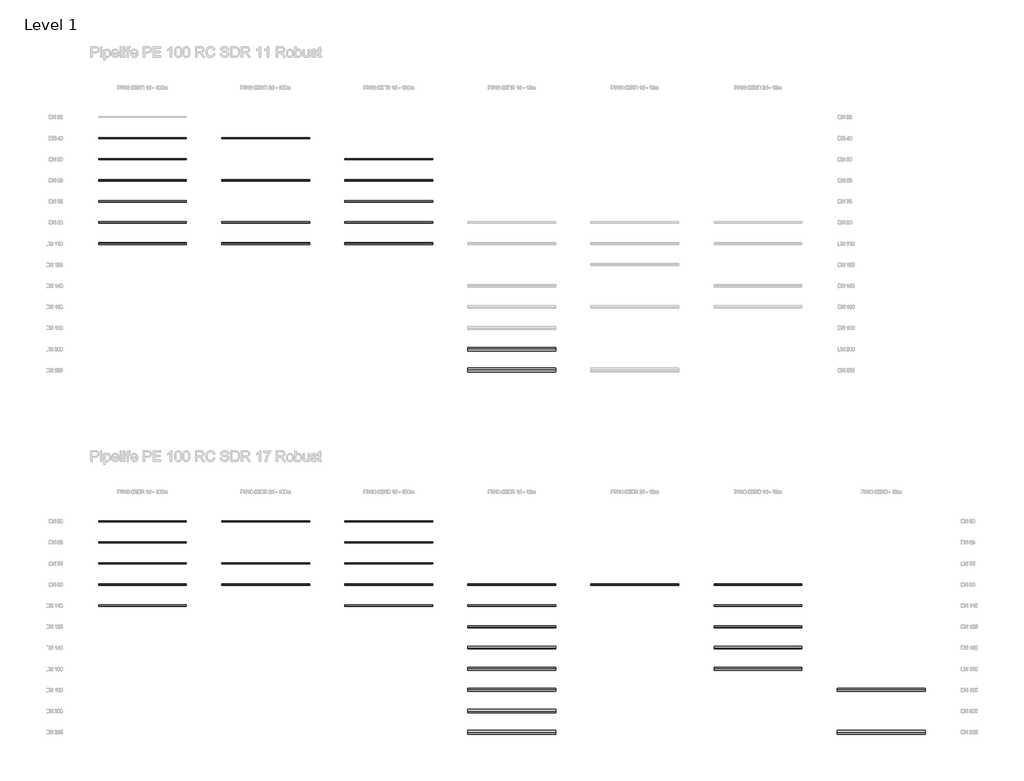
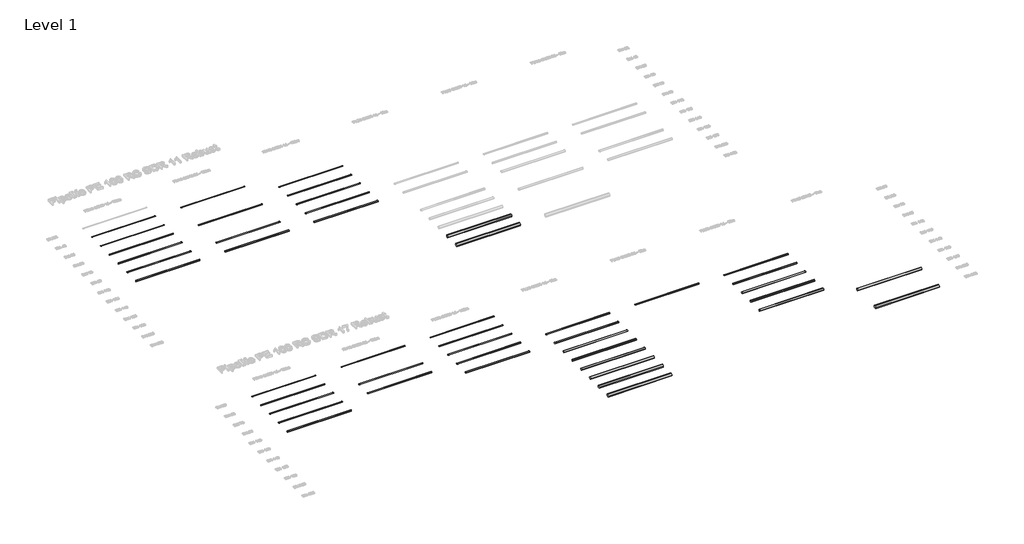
# One storey, part 1 of 13: 46 pipe segments.
"""IFC4 building model written with IfcOpenShell, lengths in millimetres."""

from ifc_helpers import new_model, si_unit, point, frame, frame_2d, origin, place, context, project, spatial, circle_curve, trimmed, segment, composite_curve, outline, extrude, element, save

model = new_model("IFC4")

# Units and contexts
model_context = context("Model", 3, world=origin())
ifc_project = project(units=[si_unit("LENGTHUNIT", "METRE", prefix="MILLI")], contexts=[model_context])

# Site, building, storey
site = spatial("IfcSite", under=ifc_project)
building = spatial("IfcBuilding", under=site)
storey = spatial("IfcBuildingStorey", under=building, Name="Level 1", Elevation=0.0)

# Pipe segments
placement = place(None, origin())
element("IfcPipeSegment", 1, ObjectType="Pipelife ROBUST, SDR 11 czarno/niebieska 1d - 100m", at=placement, inside=storey, context=model_context, shape_type="SweptSolid", body=[
    extrude(outline(composite_curve([segment(trimmed(circle_curve(frame_2d((-5413.949573, 0.0)), 45.0), [point((-5458.949573, 0.0))], [point((-5413.949573, 45.0))], False, "CARTESIAN"), True, "CONTINUOUS"), segment(trimmed(circle_curve(frame_2d((-5413.949573, 0.0)), 45.0), [point((-5413.949573, 45.0))], [point((-5368.949573, 0.0))], False, "CARTESIAN"), True, "CONTINUOUS"), segment(trimmed(circle_curve(frame_2d((-5413.949573, 0.0)), 45.0), [point((-5368.949573, 0.0))], [point((-5413.949573, -45.0))], False, "CARTESIAN"), True, "CONTINUOUS"), segment(trimmed(circle_curve(frame_2d((-5413.949573, 0.0)), 45.0), [point((-5413.949573, -45.0))], [point((-5458.949573, 0.0))], False, "CARTESIAN"), True, "CONTINUOUS")], self_intersect=False)), frame((-16532.6671252, 0.0, 0.0), z_axis=(1.0, 0.0, 0.0), x_axis=(0.0, 1.0, 0.0)), (0.0, 0.0, 1.0), 5000.0),
])
element("IfcPipeSegment", 2, ObjectType="Pipelife ROBUST, SDR 11 czarno/niebieska 1d - 100m", at=placement, inside=storey, context=model_context, shape_type="SweptSolid", body=[
    extrude(outline(composite_curve([segment(trimmed(circle_curve(frame_2d((-4213.949573, 0.0)), 37.5), [point((-4251.449573, 0.0))], [point((-4213.949573, 37.5))], False, "CARTESIAN"), True, "CONTINUOUS"), segment(trimmed(circle_curve(frame_2d((-4213.949573, 0.0)), 37.5), [point((-4213.949573, 37.5))], [point((-4176.449573, 0.0))], False, "CARTESIAN"), True, "CONTINUOUS"), segment(trimmed(circle_curve(frame_2d((-4213.949573, 0.0)), 37.5), [point((-4176.449573, 0.0))], [point((-4213.949573, -37.5))], False, "CARTESIAN"), True, "CONTINUOUS"), segment(trimmed(circle_curve(frame_2d((-4213.949573, 0.0)), 37.5), [point((-4213.949573, -37.5))], [point((-4251.449573, 0.0))], False, "CARTESIAN"), True, "CONTINUOUS")], self_intersect=False)), frame((-16532.6671252, 0.0, 0.0), z_axis=(1.0, 0.0, 0.0), x_axis=(0.0, 1.0, 0.0)), (0.0, 0.0, 1.0), 5000.0),
])
element("IfcPipeSegment", 3, ObjectType="Pipelife ROBUST, SDR 11 czarno/niebieska 1d - 100m", at=placement, inside=storey, context=model_context, shape_type="SweptSolid", body=[
    extrude(outline(composite_curve([segment(trimmed(circle_curve(frame_2d((-3013.949573, 0.0)), 31.5), [point((-3045.449573, 0.0))], [point((-3013.949573, 31.5))], False, "CARTESIAN"), True, "CONTINUOUS"), segment(trimmed(circle_curve(frame_2d((-3013.949573, 0.0)), 31.5), [point((-3013.949573, 31.5))], [point((-2982.449573, 0.0))], False, "CARTESIAN"), True, "CONTINUOUS"), segment(trimmed(circle_curve(frame_2d((-3013.949573, 0.0)), 31.5), [point((-2982.449573, 0.0))], [point((-3013.949573, -31.5))], False, "CARTESIAN"), True, "CONTINUOUS"), segment(trimmed(circle_curve(frame_2d((-3013.949573, 0.0)), 31.5), [point((-3013.949573, -31.5))], [point((-3045.449573, 0.0))], False, "CARTESIAN"), True, "CONTINUOUS")], self_intersect=False)), frame((-16532.6671252, 0.0, 0.0), z_axis=(1.0, 0.0, 0.0), x_axis=(0.0, 1.0, 0.0)), (0.0, 0.0, 1.0), 5000.0),
])
element("IfcPipeSegment", 4, ObjectType="Pipelife ROBUST, SDR 11 czarno/niebieska 1d - 100m", at=placement, inside=storey, context=model_context, shape_type="SweptSolid", body=[
    extrude(outline(composite_curve([segment(trimmed(circle_curve(frame_2d((-1813.949573, 0.0)), 25.0), [point((-1838.949573, 0.0))], [point((-1813.949573, 25.0))], False, "CARTESIAN"), True, "CONTINUOUS"), segment(trimmed(circle_curve(frame_2d((-1813.949573, 0.0)), 25.0), [point((-1813.949573, 25.0))], [point((-1788.949573, 0.0))], False, "CARTESIAN"), True, "CONTINUOUS"), segment(trimmed(circle_curve(frame_2d((-1813.949573, 0.0)), 25.0), [point((-1788.949573, 0.0))], [point((-1813.949573, -25.0))], False, "CARTESIAN"), True, "CONTINUOUS"), segment(trimmed(circle_curve(frame_2d((-1813.949573, 0.0)), 25.0), [point((-1813.949573, -25.0))], [point((-1838.949573, 0.0))], False, "CARTESIAN"), True, "CONTINUOUS")], self_intersect=False)), frame((-16532.6671252, 0.0, 0.0), z_axis=(1.0, 0.0, 0.0), x_axis=(0.0, 1.0, 0.0)), (0.0, 0.0, 1.0), 5000.0),
])
element("IfcPipeSegment", 5, ObjectType="Pipelife ROBUST, SDR 11 czarno/niebieska 1d - 100m", at=placement, inside=storey, context=model_context, shape_type="SweptSolid", body=[
    extrude(outline(composite_curve([segment(trimmed(circle_curve(frame_2d((-613.949573, 0.0)), 20.0), [point((-633.949573, 0.0))], [point((-613.949573, 20.0))], False, "CARTESIAN"), True, "CONTINUOUS"), segment(trimmed(circle_curve(frame_2d((-613.949573, 0.0)), 20.0), [point((-613.949573, 20.0))], [point((-593.949573, 0.0))], False, "CARTESIAN"), True, "CONTINUOUS"), segment(trimmed(circle_curve(frame_2d((-613.949573, 0.0)), 20.0), [point((-593.949573, 0.0))], [point((-613.949573, -20.0))], False, "CARTESIAN"), True, "CONTINUOUS"), segment(trimmed(circle_curve(frame_2d((-613.949573, 0.0)), 20.0), [point((-613.949573, -20.0))], [point((-633.949573, 0.0))], False, "CARTESIAN"), True, "CONTINUOUS")], self_intersect=False)), frame((-16532.6671252, 0.0, 0.0), z_axis=(1.0, 0.0, 0.0), x_axis=(0.0, 1.0, 0.0)), (0.0, 0.0, 1.0), 5000.0),
])
element("IfcPipeSegment", 6, ObjectType="Pipelife ROBUST, SDR 11 czarno/niebieska 1d - 100m", at=placement, inside=storey, context=model_context, shape_type="SweptSolid", body=[
    extrude(outline(composite_curve([segment(trimmed(circle_curve(frame_2d((-6613.949573, 0.0)), 55.0), [point((-6668.949573, 0.0))], [point((-6613.949573, 55.0))], False, "CARTESIAN"), True, "CONTINUOUS"), segment(trimmed(circle_curve(frame_2d((-6613.949573, 0.0)), 55.0), [point((-6613.949573, 55.0))], [point((-6558.949573, 0.0))], False, "CARTESIAN"), True, "CONTINUOUS"), segment(trimmed(circle_curve(frame_2d((-6613.949573, 0.0)), 55.0), [point((-6558.949573, 0.0))], [point((-6613.949573, -55.0))], False, "CARTESIAN"), True, "CONTINUOUS"), segment(trimmed(circle_curve(frame_2d((-6613.949573, 0.0)), 55.0), [point((-6613.949573, -55.0))], [point((-6668.949573, 0.0))], False, "CARTESIAN"), True, "CONTINUOUS")], self_intersect=False)), frame((-16532.6671252, 0.0, 0.0), z_axis=(1.0, 0.0, 0.0), x_axis=(0.0, 1.0, 0.0)), (0.0, 0.0, 1.0), 5000.0),
])
element("IfcPipeSegment", 7, ObjectType="Pipelife ROBUST, SDR 11 czarno/niebieska 2d - 100m", at=placement, inside=storey, context=model_context, shape_type="SweptSolid", body=[
    extrude(outline(composite_curve([segment(trimmed(circle_curve(frame_2d((-5413.949573, 0.0)), 45.0), [point((-5458.949573, 0.0))], [point((-5413.949573, 45.0))], False, "CARTESIAN"), True, "CONTINUOUS"), segment(trimmed(circle_curve(frame_2d((-5413.949573, 0.0)), 45.0), [point((-5413.949573, 45.0))], [point((-5368.949573, 0.0))], False, "CARTESIAN"), True, "CONTINUOUS"), segment(trimmed(circle_curve(frame_2d((-5413.949573, 0.0)), 45.0), [point((-5368.949573, 0.0))], [point((-5413.949573, -45.0))], False, "CARTESIAN"), True, "CONTINUOUS"), segment(trimmed(circle_curve(frame_2d((-5413.949573, 0.0)), 45.0), [point((-5413.949573, -45.0))], [point((-5458.949573, 0.0))], False, "CARTESIAN"), True, "CONTINUOUS")], self_intersect=False)), frame((-9532.6671252, 0.0, 0.0), z_axis=(1.0, 0.0, 0.0), x_axis=(0.0, 1.0, 0.0)), (0.0, 0.0, 1.0), 5000.0),
])
element("IfcPipeSegment", 8, ObjectType="Pipelife ROBUST, SDR 11 czarno/niebieska 2d - 100m", at=placement, inside=storey, context=model_context, shape_type="SweptSolid", body=[
    extrude(outline(composite_curve([segment(trimmed(circle_curve(frame_2d((-3013.949573, 0.0)), 31.5), [point((-3045.449573, 0.0))], [point((-3013.949573, 31.5))], False, "CARTESIAN"), True, "CONTINUOUS"), segment(trimmed(circle_curve(frame_2d((-3013.949573, 0.0)), 31.5), [point((-3013.949573, 31.5))], [point((-2982.449573, 0.0))], False, "CARTESIAN"), True, "CONTINUOUS"), segment(trimmed(circle_curve(frame_2d((-3013.949573, 0.0)), 31.5), [point((-2982.449573, 0.0))], [point((-3013.949573, -31.5))], False, "CARTESIAN"), True, "CONTINUOUS"), segment(trimmed(circle_curve(frame_2d((-3013.949573, 0.0)), 31.5), [point((-3013.949573, -31.5))], [point((-3045.449573, 0.0))], False, "CARTESIAN"), True, "CONTINUOUS")], self_intersect=False)), frame((-9532.6671252, 0.0, 0.0), z_axis=(1.0, 0.0, 0.0), x_axis=(0.0, 1.0, 0.0)), (0.0, 0.0, 1.0), 5000.0),
])
element("IfcPipeSegment", 9, ObjectType="Pipelife ROBUST, SDR 11 czarno/niebieska 2d - 100m", at=placement, inside=storey, context=model_context, shape_type="SweptSolid", body=[
    extrude(outline(composite_curve([segment(trimmed(circle_curve(frame_2d((-613.949573, 0.0)), 20.0), [point((-633.949573, 0.0))], [point((-613.949573, 20.0))], False, "CARTESIAN"), True, "CONTINUOUS"), segment(trimmed(circle_curve(frame_2d((-613.949573, 0.0)), 20.0), [point((-613.949573, 20.0))], [point((-593.949573, 0.0))], False, "CARTESIAN"), True, "CONTINUOUS"), segment(trimmed(circle_curve(frame_2d((-613.949573, 0.0)), 20.0), [point((-593.949573, 0.0))], [point((-613.949573, -20.0))], False, "CARTESIAN"), True, "CONTINUOUS"), segment(trimmed(circle_curve(frame_2d((-613.949573, 0.0)), 20.0), [point((-613.949573, -20.0))], [point((-633.949573, 0.0))], False, "CARTESIAN"), True, "CONTINUOUS")], self_intersect=False)), frame((-9532.6671252, 0.0, 0.0), z_axis=(1.0, 0.0, 0.0), x_axis=(0.0, 1.0, 0.0)), (0.0, 0.0, 1.0), 5000.0),
])
element("IfcPipeSegment", 10, ObjectType="Pipelife ROBUST, SDR 11 czarno/niebieska 2d - 100m", at=placement, inside=storey, context=model_context, shape_type="SweptSolid", body=[
    extrude(outline(composite_curve([segment(trimmed(circle_curve(frame_2d((-6613.949573, 0.0)), 55.0), [point((-6668.949573, 0.0))], [point((-6613.949573, 55.0))], False, "CARTESIAN"), True, "CONTINUOUS"), segment(trimmed(circle_curve(frame_2d((-6613.949573, 0.0)), 55.0), [point((-6613.949573, 55.0))], [point((-6558.949573, 0.0))], False, "CARTESIAN"), True, "CONTINUOUS"), segment(trimmed(circle_curve(frame_2d((-6613.949573, 0.0)), 55.0), [point((-6558.949573, 0.0))], [point((-6613.949573, -55.0))], False, "CARTESIAN"), True, "CONTINUOUS"), segment(trimmed(circle_curve(frame_2d((-6613.949573, 0.0)), 55.0), [point((-6613.949573, -55.0))], [point((-6668.949573, 0.0))], False, "CARTESIAN"), True, "CONTINUOUS")], self_intersect=False)), frame((-9532.6671252, 0.0, 0.0), z_axis=(1.0, 0.0, 0.0), x_axis=(0.0, 1.0, 0.0)), (0.0, 0.0, 1.0), 5000.0),
])
element("IfcPipeSegment", 11, ObjectType="Pipelife ROBUST, SDR 11 czarno/brązowa 1d - 100m", at=placement, inside=storey, context=model_context, shape_type="SweptSolid", body=[
    extrude(outline(composite_curve([segment(trimmed(circle_curve(frame_2d((-6613.949573, 0.0)), 55.0), [point((-6668.949573, 0.0))], [point((-6613.949573, 55.0))], False, "CARTESIAN"), True, "CONTINUOUS"), segment(trimmed(circle_curve(frame_2d((-6613.949573, 0.0)), 55.0), [point((-6613.949573, 55.0))], [point((-6558.949573, 0.0))], False, "CARTESIAN"), True, "CONTINUOUS"), segment(trimmed(circle_curve(frame_2d((-6613.949573, 0.0)), 55.0), [point((-6558.949573, 0.0))], [point((-6613.949573, -55.0))], False, "CARTESIAN"), True, "CONTINUOUS"), segment(trimmed(circle_curve(frame_2d((-6613.949573, 0.0)), 55.0), [point((-6613.949573, -55.0))], [point((-6668.949573, 0.0))], False, "CARTESIAN"), True, "CONTINUOUS")], self_intersect=False)), frame((-2532.6671252, 0.0, 0.0), z_axis=(1.0, 0.0, 0.0), x_axis=(0.0, 1.0, 0.0)), (0.0, 0.0, 1.0), 5000.0),
])
element("IfcPipeSegment", 12, ObjectType="Pipelife ROBUST, SDR 11 czarno/brązowa 1d - 100m", at=placement, inside=storey, context=model_context, shape_type="SweptSolid", body=[
    extrude(outline(composite_curve([segment(trimmed(circle_curve(frame_2d((-5413.949573, 0.0)), 45.0), [point((-5458.949573, 0.0))], [point((-5413.949573, 45.0))], False, "CARTESIAN"), True, "CONTINUOUS"), segment(trimmed(circle_curve(frame_2d((-5413.949573, 0.0)), 45.0), [point((-5413.949573, 45.0))], [point((-5368.949573, 0.0))], False, "CARTESIAN"), True, "CONTINUOUS"), segment(trimmed(circle_curve(frame_2d((-5413.949573, 0.0)), 45.0), [point((-5368.949573, 0.0))], [point((-5413.949573, -45.0))], False, "CARTESIAN"), True, "CONTINUOUS"), segment(trimmed(circle_curve(frame_2d((-5413.949573, 0.0)), 45.0), [point((-5413.949573, -45.0))], [point((-5458.949573, 0.0))], False, "CARTESIAN"), True, "CONTINUOUS")], self_intersect=False)), frame((-2532.6671252, 0.0, 0.0), z_axis=(1.0, 0.0, 0.0), x_axis=(0.0, 1.0, 0.0)), (0.0, 0.0, 1.0), 5000.0),
])
element("IfcPipeSegment", 13, ObjectType="Pipelife ROBUST, SDR 11 czarno/brązowa 1d - 100m", at=placement, inside=storey, context=model_context, shape_type="SweptSolid", body=[
    extrude(outline(composite_curve([segment(trimmed(circle_curve(frame_2d((-4213.949573, 0.0)), 37.5), [point((-4251.449573, 0.0))], [point((-4213.949573, 37.5))], False, "CARTESIAN"), True, "CONTINUOUS"), segment(trimmed(circle_curve(frame_2d((-4213.949573, 0.0)), 37.5), [point((-4213.949573, 37.5))], [point((-4176.449573, 0.0))], False, "CARTESIAN"), True, "CONTINUOUS"), segment(trimmed(circle_curve(frame_2d((-4213.949573, 0.0)), 37.5), [point((-4176.449573, 0.0))], [point((-4213.949573, -37.5))], False, "CARTESIAN"), True, "CONTINUOUS"), segment(trimmed(circle_curve(frame_2d((-4213.949573, 0.0)), 37.5), [point((-4213.949573, -37.5))], [point((-4251.449573, 0.0))], False, "CARTESIAN"), True, "CONTINUOUS")], self_intersect=False)), frame((-2532.6671252, 0.0, 0.0), z_axis=(1.0, 0.0, 0.0), x_axis=(0.0, 1.0, 0.0)), (0.0, 0.0, 1.0), 5000.0),
])
element("IfcPipeSegment", 14, ObjectType="Pipelife ROBUST, SDR 11 czarno/brązowa 1d - 100m", at=placement, inside=storey, context=model_context, shape_type="SweptSolid", body=[
    extrude(outline(composite_curve([segment(trimmed(circle_curve(frame_2d((-3013.949573, 0.0)), 31.5), [point((-3045.449573, 0.0))], [point((-3013.949573, 31.5))], False, "CARTESIAN"), True, "CONTINUOUS"), segment(trimmed(circle_curve(frame_2d((-3013.949573, 0.0)), 31.5), [point((-3013.949573, 31.5))], [point((-2982.449573, 0.0))], False, "CARTESIAN"), True, "CONTINUOUS"), segment(trimmed(circle_curve(frame_2d((-3013.949573, 0.0)), 31.5), [point((-2982.449573, 0.0))], [point((-3013.949573, -31.5))], False, "CARTESIAN"), True, "CONTINUOUS"), segment(trimmed(circle_curve(frame_2d((-3013.949573, 0.0)), 31.5), [point((-3013.949573, -31.5))], [point((-3045.449573, 0.0))], False, "CARTESIAN"), True, "CONTINUOUS")], self_intersect=False)), frame((-2532.6671252, 0.0, 0.0), z_axis=(1.0, 0.0, 0.0), x_axis=(0.0, 1.0, 0.0)), (0.0, 0.0, 1.0), 5000.0),
])
element("IfcPipeSegment", 15, ObjectType="Pipelife ROBUST, SDR 11 czarno/brązowa 1d - 100m", at=placement, inside=storey, context=model_context, shape_type="SweptSolid", body=[
    extrude(outline(composite_curve([segment(trimmed(circle_curve(frame_2d((-1813.949573, 0.0)), 25.0), [point((-1838.949573, 0.0))], [point((-1813.949573, 25.0))], False, "CARTESIAN"), True, "CONTINUOUS"), segment(trimmed(circle_curve(frame_2d((-1813.949573, 0.0)), 25.0), [point((-1813.949573, 25.0))], [point((-1788.949573, 0.0))], False, "CARTESIAN"), True, "CONTINUOUS"), segment(trimmed(circle_curve(frame_2d((-1813.949573, 0.0)), 25.0), [point((-1788.949573, 0.0))], [point((-1813.949573, -25.0))], False, "CARTESIAN"), True, "CONTINUOUS"), segment(trimmed(circle_curve(frame_2d((-1813.949573, 0.0)), 25.0), [point((-1813.949573, -25.0))], [point((-1838.949573, 0.0))], False, "CARTESIAN"), True, "CONTINUOUS")], self_intersect=False)), frame((-2532.6671252, 0.0, 0.0), z_axis=(1.0, 0.0, 0.0), x_axis=(0.0, 1.0, 0.0)), (0.0, 0.0, 1.0), 5000.0),
])
element("IfcPipeSegment", 16, ObjectType="Pipelife ROBUST, SDR 11 czarno/brązowa 1d - 12m", at=placement, inside=storey, context=model_context, shape_type="SweptSolid", body=[
    extrude(outline(composite_curve([segment(trimmed(circle_curve(frame_2d((-12613.949573, 0.0)), 100.0), [point((-12713.949573, 0.0))], [point((-12613.949573, 100.0))], False, "CARTESIAN"), True, "CONTINUOUS"), segment(trimmed(circle_curve(frame_2d((-12613.949573, 0.0)), 100.0), [point((-12613.949573, 100.0))], [point((-12513.949573, 0.0))], False, "CARTESIAN"), True, "CONTINUOUS"), segment(trimmed(circle_curve(frame_2d((-12613.949573, 0.0)), 100.0), [point((-12513.949573, 0.0))], [point((-12613.949573, -100.0))], False, "CARTESIAN"), True, "CONTINUOUS"), segment(trimmed(circle_curve(frame_2d((-12613.949573, 0.0)), 100.0), [point((-12613.949573, -100.0))], [point((-12713.949573, 0.0))], False, "CARTESIAN"), True, "CONTINUOUS")], self_intersect=False)), frame((4467.3328748, 0.0, 0.0), z_axis=(1.0, 0.0, 0.0), x_axis=(0.0, 1.0, 0.0)), (0.0, 0.0, 1.0), 5000.0),
])
element("IfcPipeSegment", 17, ObjectType="Pipelife ROBUST, SDR 11 czarno/brązowa 1d - 12m", at=placement, inside=storey, context=model_context, shape_type="SweptSolid", body=[
    extrude(outline(composite_curve([segment(trimmed(circle_curve(frame_2d((-13813.949573, 0.0)), 112.5), [point((-13926.449573, 0.0))], [point((-13813.949573, 112.5))], False, "CARTESIAN"), True, "CONTINUOUS"), segment(trimmed(circle_curve(frame_2d((-13813.949573, 0.0)), 112.5), [point((-13813.949573, 112.5))], [point((-13701.449573, 0.0))], False, "CARTESIAN"), True, "CONTINUOUS"), segment(trimmed(circle_curve(frame_2d((-13813.949573, 0.0)), 112.5), [point((-13701.449573, 0.0))], [point((-13813.949573, -112.5))], False, "CARTESIAN"), True, "CONTINUOUS"), segment(trimmed(circle_curve(frame_2d((-13813.949573, 0.0)), 112.5), [point((-13813.949573, -112.5))], [point((-13926.449573, 0.0))], False, "CARTESIAN"), True, "CONTINUOUS")], self_intersect=False)), frame((4467.3328748, 0.0, 0.0), z_axis=(1.0, 0.0, 0.0), x_axis=(0.0, 1.0, 0.0)), (0.0, 0.0, 1.0), 5000.0),
])
element("IfcPipeSegment", 18, ObjectType="Pipelife ROBUST, SDR 17 czarno/brązowa 1d - 100m", at=placement, inside=storey, context=model_context, shape_type="SweptSolid", body=[
    extrude(outline(composite_curve([segment(trimmed(circle_curve(frame_2d((-22413.949573, 0.0)), 25.0), [point((-22438.949573, 0.0))], [point((-22413.949573, 25.0))], False, "CARTESIAN"), True, "CONTINUOUS"), segment(trimmed(circle_curve(frame_2d((-22413.949573, 0.0)), 25.0), [point((-22413.949573, 25.0))], [point((-22388.949573, 0.0))], False, "CARTESIAN"), True, "CONTINUOUS"), segment(trimmed(circle_curve(frame_2d((-22413.949573, 0.0)), 25.0), [point((-22388.949573, 0.0))], [point((-22413.949573, -25.0))], False, "CARTESIAN"), True, "CONTINUOUS"), segment(trimmed(circle_curve(frame_2d((-22413.949573, 0.0)), 25.0), [point((-22413.949573, -25.0))], [point((-22438.949573, 0.0))], False, "CARTESIAN"), True, "CONTINUOUS")], self_intersect=False)), frame((-16532.6671252, 0.0, 0.0), z_axis=(1.0, 0.0, 0.0), x_axis=(0.0, 1.0, 0.0)), (0.0, 0.0, 1.0), 5000.0),
])
element("IfcPipeSegment", 19, ObjectType="Pipelife ROBUST, SDR 17 czarno/brązowa 1d - 100m", at=placement, inside=storey, context=model_context, shape_type="SweptSolid", body=[
    extrude(outline(composite_curve([segment(trimmed(circle_curve(frame_2d((-23613.949573, 0.0)), 31.5), [point((-23645.449573, 0.0))], [point((-23613.949573, 31.5))], False, "CARTESIAN"), True, "CONTINUOUS"), segment(trimmed(circle_curve(frame_2d((-23613.949573, 0.0)), 31.5), [point((-23613.949573, 31.5))], [point((-23582.449573, 0.0))], False, "CARTESIAN"), True, "CONTINUOUS"), segment(trimmed(circle_curve(frame_2d((-23613.949573, 0.0)), 31.5), [point((-23582.449573, 0.0))], [point((-23613.949573, -31.5))], False, "CARTESIAN"), True, "CONTINUOUS"), segment(trimmed(circle_curve(frame_2d((-23613.949573, 0.0)), 31.5), [point((-23613.949573, -31.5))], [point((-23645.449573, 0.0))], False, "CARTESIAN"), True, "CONTINUOUS")], self_intersect=False)), frame((-16532.6671252, 0.0, 0.0), z_axis=(1.0, 0.0, 0.0), x_axis=(0.0, 1.0, 0.0)), (0.0, 0.0, 1.0), 5000.0),
])
element("IfcPipeSegment", 20, ObjectType="Pipelife ROBUST, SDR 17 czarno/brązowa 1d - 100m", at=placement, inside=storey, context=model_context, shape_type="SweptSolid", body=[
    extrude(outline(composite_curve([segment(trimmed(circle_curve(frame_2d((-24813.949573, 0.0)), 37.5), [point((-24851.449573, 0.0))], [point((-24813.949573, 37.5))], False, "CARTESIAN"), True, "CONTINUOUS"), segment(trimmed(circle_curve(frame_2d((-24813.949573, 0.0)), 37.5), [point((-24813.949573, 37.5))], [point((-24776.449573, 0.0))], False, "CARTESIAN"), True, "CONTINUOUS"), segment(trimmed(circle_curve(frame_2d((-24813.949573, 0.0)), 37.5), [point((-24776.449573, 0.0))], [point((-24813.949573, -37.5))], False, "CARTESIAN"), True, "CONTINUOUS"), segment(trimmed(circle_curve(frame_2d((-24813.949573, 0.0)), 37.5), [point((-24813.949573, -37.5))], [point((-24851.449573, 0.0))], False, "CARTESIAN"), True, "CONTINUOUS")], self_intersect=False)), frame((-16532.6671252, 0.0, 0.0), z_axis=(1.0, 0.0, 0.0), x_axis=(0.0, 1.0, 0.0)), (0.0, 0.0, 1.0), 5000.0),
])
element("IfcPipeSegment", 21, ObjectType="Pipelife ROBUST, SDR 17 czarno/brązowa 1d - 100m", at=placement, inside=storey, context=model_context, shape_type="SweptSolid", body=[
    extrude(outline(composite_curve([segment(trimmed(circle_curve(frame_2d((-26013.949573, 0.0)), 45.0), [point((-26058.949573, 0.0))], [point((-26013.949573, 45.0))], False, "CARTESIAN"), True, "CONTINUOUS"), segment(trimmed(circle_curve(frame_2d((-26013.949573, 0.0)), 45.0), [point((-26013.949573, 45.0))], [point((-25968.949573, 0.0))], False, "CARTESIAN"), True, "CONTINUOUS"), segment(trimmed(circle_curve(frame_2d((-26013.949573, 0.0)), 45.0), [point((-25968.949573, 0.0))], [point((-26013.949573, -45.0))], False, "CARTESIAN"), True, "CONTINUOUS"), segment(trimmed(circle_curve(frame_2d((-26013.949573, 0.0)), 45.0), [point((-26013.949573, -45.0))], [point((-26058.949573, 0.0))], False, "CARTESIAN"), True, "CONTINUOUS")], self_intersect=False)), frame((-16532.6671252, 0.0, 0.0), z_axis=(1.0, 0.0, 0.0), x_axis=(0.0, 1.0, 0.0)), (0.0, 0.0, 1.0), 5000.0),
])
element("IfcPipeSegment", 22, ObjectType="Pipelife ROBUST, SDR 17 czarno/brązowa 1d - 100m", at=placement, inside=storey, context=model_context, shape_type="SweptSolid", body=[
    extrude(outline(composite_curve([segment(trimmed(circle_curve(frame_2d((-27213.949573, 0.0)), 55.0), [point((-27268.949573, 0.0))], [point((-27213.949573, 55.0))], False, "CARTESIAN"), True, "CONTINUOUS"), segment(trimmed(circle_curve(frame_2d((-27213.949573, 0.0)), 55.0), [point((-27213.949573, 55.0))], [point((-27158.949573, 0.0))], False, "CARTESIAN"), True, "CONTINUOUS"), segment(trimmed(circle_curve(frame_2d((-27213.949573, 0.0)), 55.0), [point((-27158.949573, 0.0))], [point((-27213.949573, -55.0))], False, "CARTESIAN"), True, "CONTINUOUS"), segment(trimmed(circle_curve(frame_2d((-27213.949573, 0.0)), 55.0), [point((-27213.949573, -55.0))], [point((-27268.949573, 0.0))], False, "CARTESIAN"), True, "CONTINUOUS")], self_intersect=False)), frame((-16532.6671252, 0.0, 0.0), z_axis=(1.0, 0.0, 0.0), x_axis=(0.0, 1.0, 0.0)), (0.0, 0.0, 1.0), 5000.0),
])
element("IfcPipeSegment", 23, ObjectType="Pipelife ROBUST, SDR 17 czarno/brązowa 2d - 100m", at=placement, inside=storey, context=model_context, shape_type="SweptSolid", body=[
    extrude(outline(composite_curve([segment(trimmed(circle_curve(frame_2d((-22413.949573, 0.0)), 25.0), [point((-22438.949573, 0.0))], [point((-22413.949573, 25.0))], False, "CARTESIAN"), True, "CONTINUOUS"), segment(trimmed(circle_curve(frame_2d((-22413.949573, 0.0)), 25.0), [point((-22413.949573, 25.0))], [point((-22388.949573, 0.0))], False, "CARTESIAN"), True, "CONTINUOUS"), segment(trimmed(circle_curve(frame_2d((-22413.949573, 0.0)), 25.0), [point((-22388.949573, 0.0))], [point((-22413.949573, -25.0))], False, "CARTESIAN"), True, "CONTINUOUS"), segment(trimmed(circle_curve(frame_2d((-22413.949573, 0.0)), 25.0), [point((-22413.949573, -25.0))], [point((-22438.949573, 0.0))], False, "CARTESIAN"), True, "CONTINUOUS")], self_intersect=False)), frame((-9532.6671252, 0.0, 0.0), z_axis=(1.0, 0.0, 0.0), x_axis=(0.0, 1.0, 0.0)), (0.0, 0.0, 1.0), 5000.0),
])
element("IfcPipeSegment", 24, ObjectType="Pipelife ROBUST, SDR 17 czarno/brązowa 2d - 100m", at=placement, inside=storey, context=model_context, shape_type="SweptSolid", body=[
    extrude(outline(composite_curve([segment(trimmed(circle_curve(frame_2d((-24813.949573, 0.0)), 37.5), [point((-24851.449573, 0.0))], [point((-24813.949573, 37.5))], False, "CARTESIAN"), True, "CONTINUOUS"), segment(trimmed(circle_curve(frame_2d((-24813.949573, 0.0)), 37.5), [point((-24813.949573, 37.5))], [point((-24776.449573, 0.0))], False, "CARTESIAN"), True, "CONTINUOUS"), segment(trimmed(circle_curve(frame_2d((-24813.949573, 0.0)), 37.5), [point((-24776.449573, 0.0))], [point((-24813.949573, -37.5))], False, "CARTESIAN"), True, "CONTINUOUS"), segment(trimmed(circle_curve(frame_2d((-24813.949573, 0.0)), 37.5), [point((-24813.949573, -37.5))], [point((-24851.449573, 0.0))], False, "CARTESIAN"), True, "CONTINUOUS")], self_intersect=False)), frame((-9532.6671252, 0.0, 0.0), z_axis=(1.0, 0.0, 0.0), x_axis=(0.0, 1.0, 0.0)), (0.0, 0.0, 1.0), 5000.0),
])
element("IfcPipeSegment", 25, ObjectType="Pipelife ROBUST, SDR 17 czarno/brązowa 2d - 100m", at=placement, inside=storey, context=model_context, shape_type="SweptSolid", body=[
    extrude(outline(composite_curve([segment(trimmed(circle_curve(frame_2d((-26013.949573, 0.0)), 45.0), [point((-26058.949573, 0.0))], [point((-26013.949573, 45.0))], False, "CARTESIAN"), True, "CONTINUOUS"), segment(trimmed(circle_curve(frame_2d((-26013.949573, 0.0)), 45.0), [point((-26013.949573, 45.0))], [point((-25968.949573, 0.0))], False, "CARTESIAN"), True, "CONTINUOUS"), segment(trimmed(circle_curve(frame_2d((-26013.949573, 0.0)), 45.0), [point((-25968.949573, 0.0))], [point((-26013.949573, -45.0))], False, "CARTESIAN"), True, "CONTINUOUS"), segment(trimmed(circle_curve(frame_2d((-26013.949573, 0.0)), 45.0), [point((-26013.949573, -45.0))], [point((-26058.949573, 0.0))], False, "CARTESIAN"), True, "CONTINUOUS")], self_intersect=False)), frame((-9532.6671252, 0.0, 0.0), z_axis=(1.0, 0.0, 0.0), x_axis=(0.0, 1.0, 0.0)), (0.0, 0.0, 1.0), 5000.0),
])
element("IfcPipeSegment", 26, ObjectType="Pipelife ROBUST, SDR 17 czarno/niebieska 1d - 100m", at=placement, inside=storey, context=model_context, shape_type="SweptSolid", body=[
    extrude(outline(composite_curve([segment(trimmed(circle_curve(frame_2d((-22413.949573, 0.0)), 25.0), [point((-22438.949573, 0.0))], [point((-22413.949573, 25.0))], False, "CARTESIAN"), True, "CONTINUOUS"), segment(trimmed(circle_curve(frame_2d((-22413.949573, 0.0)), 25.0), [point((-22413.949573, 25.0))], [point((-22388.949573, 0.0))], False, "CARTESIAN"), True, "CONTINUOUS"), segment(trimmed(circle_curve(frame_2d((-22413.949573, 0.0)), 25.0), [point((-22388.949573, 0.0))], [point((-22413.949573, -25.0))], False, "CARTESIAN"), True, "CONTINUOUS"), segment(trimmed(circle_curve(frame_2d((-22413.949573, 0.0)), 25.0), [point((-22413.949573, -25.0))], [point((-22438.949573, 0.0))], False, "CARTESIAN"), True, "CONTINUOUS")], self_intersect=False)), frame((-2532.6671252, 0.0, 0.0), z_axis=(1.0, 0.0, 0.0), x_axis=(0.0, 1.0, 0.0)), (0.0, 0.0, 1.0), 5000.0),
])
element("IfcPipeSegment", 27, ObjectType="Pipelife ROBUST, SDR 17 czarno/niebieska 1d - 100m", at=placement, inside=storey, context=model_context, shape_type="SweptSolid", body=[
    extrude(outline(composite_curve([segment(trimmed(circle_curve(frame_2d((-23613.949573, 0.0)), 31.5), [point((-23645.449573, 0.0))], [point((-23613.949573, 31.5))], False, "CARTESIAN"), True, "CONTINUOUS"), segment(trimmed(circle_curve(frame_2d((-23613.949573, 0.0)), 31.5), [point((-23613.949573, 31.5))], [point((-23582.449573, 0.0))], False, "CARTESIAN"), True, "CONTINUOUS"), segment(trimmed(circle_curve(frame_2d((-23613.949573, 0.0)), 31.5), [point((-23582.449573, 0.0))], [point((-23613.949573, -31.5))], False, "CARTESIAN"), True, "CONTINUOUS"), segment(trimmed(circle_curve(frame_2d((-23613.949573, 0.0)), 31.5), [point((-23613.949573, -31.5))], [point((-23645.449573, 0.0))], False, "CARTESIAN"), True, "CONTINUOUS")], self_intersect=False)), frame((-2532.6671252, 0.0, 0.0), z_axis=(1.0, 0.0, 0.0), x_axis=(0.0, 1.0, 0.0)), (0.0, 0.0, 1.0), 5000.0),
])
element("IfcPipeSegment", 28, ObjectType="Pipelife ROBUST, SDR 17 czarno/niebieska 1d - 100m", at=placement, inside=storey, context=model_context, shape_type="SweptSolid", body=[
    extrude(outline(composite_curve([segment(trimmed(circle_curve(frame_2d((-24813.949573, 0.0)), 37.5), [point((-24851.449573, 0.0))], [point((-24813.949573, 37.5))], False, "CARTESIAN"), True, "CONTINUOUS"), segment(trimmed(circle_curve(frame_2d((-24813.949573, 0.0)), 37.5), [point((-24813.949573, 37.5))], [point((-24776.449573, 0.0))], False, "CARTESIAN"), True, "CONTINUOUS"), segment(trimmed(circle_curve(frame_2d((-24813.949573, 0.0)), 37.5), [point((-24776.449573, 0.0))], [point((-24813.949573, -37.5))], False, "CARTESIAN"), True, "CONTINUOUS"), segment(trimmed(circle_curve(frame_2d((-24813.949573, 0.0)), 37.5), [point((-24813.949573, -37.5))], [point((-24851.449573, 0.0))], False, "CARTESIAN"), True, "CONTINUOUS")], self_intersect=False)), frame((-2532.6671252, 0.0, 0.0), z_axis=(1.0, 0.0, 0.0), x_axis=(0.0, 1.0, 0.0)), (0.0, 0.0, 1.0), 5000.0),
])
element("IfcPipeSegment", 29, ObjectType="Pipelife ROBUST, SDR 17 czarno/niebieska 1d - 100m", at=placement, inside=storey, context=model_context, shape_type="SweptSolid", body=[
    extrude(outline(composite_curve([segment(trimmed(circle_curve(frame_2d((-26013.949573, 0.0)), 45.0), [point((-26058.949573, 0.0))], [point((-26013.949573, 45.0))], False, "CARTESIAN"), True, "CONTINUOUS"), segment(trimmed(circle_curve(frame_2d((-26013.949573, 0.0)), 45.0), [point((-26013.949573, 45.0))], [point((-25968.949573, 0.0))], False, "CARTESIAN"), True, "CONTINUOUS"), segment(trimmed(circle_curve(frame_2d((-26013.949573, 0.0)), 45.0), [point((-25968.949573, 0.0))], [point((-26013.949573, -45.0))], False, "CARTESIAN"), True, "CONTINUOUS"), segment(trimmed(circle_curve(frame_2d((-26013.949573, 0.0)), 45.0), [point((-26013.949573, -45.0))], [point((-26058.949573, 0.0))], False, "CARTESIAN"), True, "CONTINUOUS")], self_intersect=False)), frame((-2532.6671252, 0.0, 0.0), z_axis=(1.0, 0.0, 0.0), x_axis=(0.0, 1.0, 0.0)), (0.0, 0.0, 1.0), 5000.0),
])
element("IfcPipeSegment", 30, ObjectType="Pipelife ROBUST, SDR 17 czarno/niebieska 1d - 100m", at=placement, inside=storey, context=model_context, shape_type="SweptSolid", body=[
    extrude(outline(composite_curve([segment(trimmed(circle_curve(frame_2d((-27213.949573, 0.0)), 55.0), [point((-27268.949573, 0.0))], [point((-27213.949573, 55.0))], False, "CARTESIAN"), True, "CONTINUOUS"), segment(trimmed(circle_curve(frame_2d((-27213.949573, 0.0)), 55.0), [point((-27213.949573, 55.0))], [point((-27158.949573, 0.0))], False, "CARTESIAN"), True, "CONTINUOUS"), segment(trimmed(circle_curve(frame_2d((-27213.949573, 0.0)), 55.0), [point((-27158.949573, 0.0))], [point((-27213.949573, -55.0))], False, "CARTESIAN"), True, "CONTINUOUS"), segment(trimmed(circle_curve(frame_2d((-27213.949573, 0.0)), 55.0), [point((-27213.949573, -55.0))], [point((-27268.949573, 0.0))], False, "CARTESIAN"), True, "CONTINUOUS")], self_intersect=False)), frame((-2532.6671252, 0.0, 0.0), z_axis=(1.0, 0.0, 0.0), x_axis=(0.0, 1.0, 0.0)), (0.0, 0.0, 1.0), 5000.0),
])
element("IfcPipeSegment", 31, ObjectType="Pipelife ROBUST, SDR 17 czarno/brązowa 2d - 12m", at=placement, inside=storey, context=model_context, shape_type="SweptSolid", body=[
    extrude(outline(composite_curve([segment(trimmed(circle_curve(frame_2d((-26013.949573, 0.0)), 45.0), [point((-26058.949573, 0.0))], [point((-26013.949573, 45.0))], False, "CARTESIAN"), True, "CONTINUOUS"), segment(trimmed(circle_curve(frame_2d((-26013.949573, 0.0)), 45.0), [point((-26013.949573, 45.0))], [point((-25968.949573, 0.0))], False, "CARTESIAN"), True, "CONTINUOUS"), segment(trimmed(circle_curve(frame_2d((-26013.949573, 0.0)), 45.0), [point((-25968.949573, 0.0))], [point((-26013.949573, -45.0))], False, "CARTESIAN"), True, "CONTINUOUS"), segment(trimmed(circle_curve(frame_2d((-26013.949573, 0.0)), 45.0), [point((-26013.949573, -45.0))], [point((-26058.949573, 0.0))], False, "CARTESIAN"), True, "CONTINUOUS")], self_intersect=False)), frame((11467.3328748, 0.0, 0.0), z_axis=(1.0, 0.0, 0.0), x_axis=(0.0, 1.0, 0.0)), (0.0, 0.0, 1.0), 5000.0),
])
element("IfcPipeSegment", 32, ObjectType="Pipelife ROBUST, SDR 17 czarno/brązowa 1d - 12m", at=placement, inside=storey, context=model_context, shape_type="SweptSolid", body=[
    extrude(outline(composite_curve([segment(trimmed(circle_curve(frame_2d((-26013.949573, 0.0)), 45.0), [point((-26058.949573, 0.0))], [point((-26013.949573, 45.0))], False, "CARTESIAN"), True, "CONTINUOUS"), segment(trimmed(circle_curve(frame_2d((-26013.949573, 0.0)), 45.0), [point((-26013.949573, 45.0))], [point((-25968.949573, 0.0))], False, "CARTESIAN"), True, "CONTINUOUS"), segment(trimmed(circle_curve(frame_2d((-26013.949573, 0.0)), 45.0), [point((-25968.949573, 0.0))], [point((-26013.949573, -45.0))], False, "CARTESIAN"), True, "CONTINUOUS"), segment(trimmed(circle_curve(frame_2d((-26013.949573, 0.0)), 45.0), [point((-26013.949573, -45.0))], [point((-26058.949573, 0.0))], False, "CARTESIAN"), True, "CONTINUOUS")], self_intersect=False)), frame((4467.3328748, 0.0, 0.0), z_axis=(1.0, 0.0, 0.0), x_axis=(0.0, 1.0, 0.0)), (0.0, 0.0, 1.0), 5000.0),
])
element("IfcPipeSegment", 33, ObjectType="Pipelife ROBUST, SDR 17 czarno/brązowa 1d - 12m", at=placement, inside=storey, context=model_context, shape_type="SweptSolid", body=[
    extrude(outline(composite_curve([segment(trimmed(circle_curve(frame_2d((-27213.949573, 0.0)), 55.0), [point((-27268.949573, 0.0))], [point((-27213.949573, 55.0))], False, "CARTESIAN"), True, "CONTINUOUS"), segment(trimmed(circle_curve(frame_2d((-27213.949573, 0.0)), 55.0), [point((-27213.949573, 55.0))], [point((-27158.949573, 0.0))], False, "CARTESIAN"), True, "CONTINUOUS"), segment(trimmed(circle_curve(frame_2d((-27213.949573, 0.0)), 55.0), [point((-27158.949573, 0.0))], [point((-27213.949573, -55.0))], False, "CARTESIAN"), True, "CONTINUOUS"), segment(trimmed(circle_curve(frame_2d((-27213.949573, 0.0)), 55.0), [point((-27213.949573, -55.0))], [point((-27268.949573, 0.0))], False, "CARTESIAN"), True, "CONTINUOUS")], self_intersect=False)), frame((4467.3328748, 0.0, 0.0), z_axis=(1.0, 0.0, 0.0), x_axis=(0.0, 1.0, 0.0)), (0.0, 0.0, 1.0), 5000.0),
])
element("IfcPipeSegment", 34, ObjectType="Pipelife ROBUST, SDR 17 czarno/brązowa 1d - 12m", at=placement, inside=storey, context=model_context, shape_type="SweptSolid", body=[
    extrude(outline(composite_curve([segment(trimmed(circle_curve(frame_2d((-28413.949573, 0.0)), 62.5), [point((-28476.449573, 0.0))], [point((-28413.949573, 62.5))], False, "CARTESIAN"), True, "CONTINUOUS"), segment(trimmed(circle_curve(frame_2d((-28413.949573, 0.0)), 62.5), [point((-28413.949573, 62.5))], [point((-28351.449573, 0.0))], False, "CARTESIAN"), True, "CONTINUOUS"), segment(trimmed(circle_curve(frame_2d((-28413.949573, 0.0)), 62.5), [point((-28351.449573, 0.0))], [point((-28413.949573, -62.5))], False, "CARTESIAN"), True, "CONTINUOUS"), segment(trimmed(circle_curve(frame_2d((-28413.949573, 0.0)), 62.5), [point((-28413.949573, -62.5))], [point((-28476.449573, 0.0))], False, "CARTESIAN"), True, "CONTINUOUS")], self_intersect=False)), frame((4467.3328748, 0.0, 0.0), z_axis=(1.0, 0.0, 0.0), x_axis=(0.0, 1.0, 0.0)), (0.0, 0.0, 1.0), 5000.0),
])
element("IfcPipeSegment", 35, ObjectType="Pipelife ROBUST, SDR 17 czarno/brązowa 1d - 12m", at=placement, inside=storey, context=model_context, shape_type="SweptSolid", body=[
    extrude(outline(composite_curve([segment(trimmed(circle_curve(frame_2d((-29613.949573, 0.0)), 70.0), [point((-29683.949573, 0.0))], [point((-29613.949573, 70.0))], False, "CARTESIAN"), True, "CONTINUOUS"), segment(trimmed(circle_curve(frame_2d((-29613.949573, 0.0)), 70.0), [point((-29613.949573, 70.0))], [point((-29543.949573, 0.0))], False, "CARTESIAN"), True, "CONTINUOUS"), segment(trimmed(circle_curve(frame_2d((-29613.949573, 0.0)), 70.0), [point((-29543.949573, 0.0))], [point((-29613.949573, -70.0))], False, "CARTESIAN"), True, "CONTINUOUS"), segment(trimmed(circle_curve(frame_2d((-29613.949573, 0.0)), 70.0), [point((-29613.949573, -70.0))], [point((-29683.949573, 0.0))], False, "CARTESIAN"), True, "CONTINUOUS")], self_intersect=False)), frame((4467.3328748, 0.0, 0.0), z_axis=(1.0, 0.0, 0.0), x_axis=(0.0, 1.0, 0.0)), (0.0, 0.0, 1.0), 5000.0),
])
element("IfcPipeSegment", 36, ObjectType="Pipelife ROBUST, SDR 17 czarno/brązowa 1d - 12m", at=placement, inside=storey, context=model_context, shape_type="SweptSolid", body=[
    extrude(outline(composite_curve([segment(trimmed(circle_curve(frame_2d((-30813.949573, 0.0)), 80.0), [point((-30893.949573, 0.0))], [point((-30813.949573, 80.0))], False, "CARTESIAN"), True, "CONTINUOUS"), segment(trimmed(circle_curve(frame_2d((-30813.949573, 0.0)), 80.0), [point((-30813.949573, 80.0))], [point((-30733.949573, 0.0))], False, "CARTESIAN"), True, "CONTINUOUS"), segment(trimmed(circle_curve(frame_2d((-30813.949573, 0.0)), 80.0), [point((-30733.949573, 0.0))], [point((-30813.949573, -80.0))], False, "CARTESIAN"), True, "CONTINUOUS"), segment(trimmed(circle_curve(frame_2d((-30813.949573, 0.0)), 80.0), [point((-30813.949573, -80.0))], [point((-30893.949573, 0.0))], False, "CARTESIAN"), True, "CONTINUOUS")], self_intersect=False)), frame((4467.3328748, 0.0, 0.0), z_axis=(1.0, 0.0, 0.0), x_axis=(0.0, 1.0, 0.0)), (0.0, 0.0, 1.0), 5000.0),
])
element("IfcPipeSegment", 37, ObjectType="Pipelife ROBUST, SDR 17 czarno/brązowa 1d - 12m", at=placement, inside=storey, context=model_context, shape_type="SweptSolid", body=[
    extrude(outline(composite_curve([segment(trimmed(circle_curve(frame_2d((-32013.949573, 0.0)), 90.0), [point((-32103.949573, 0.0))], [point((-32013.949573, 90.0))], False, "CARTESIAN"), True, "CONTINUOUS"), segment(trimmed(circle_curve(frame_2d((-32013.949573, 0.0)), 90.0), [point((-32013.949573, 90.0))], [point((-31923.949573, 0.0))], False, "CARTESIAN"), True, "CONTINUOUS"), segment(trimmed(circle_curve(frame_2d((-32013.949573, 0.0)), 90.0), [point((-31923.949573, 0.0))], [point((-32013.949573, -90.0))], False, "CARTESIAN"), True, "CONTINUOUS"), segment(trimmed(circle_curve(frame_2d((-32013.949573, 0.0)), 90.0), [point((-32013.949573, -90.0))], [point((-32103.949573, 0.0))], False, "CARTESIAN"), True, "CONTINUOUS")], self_intersect=False)), frame((4467.3328748, 0.0, 0.0), z_axis=(1.0, 0.0, 0.0), x_axis=(0.0, 1.0, 0.0)), (0.0, 0.0, 1.0), 5000.0),
])
element("IfcPipeSegment", 38, ObjectType="Pipelife ROBUST, SDR 17 czarno/brązowa 1d - 12m", at=placement, inside=storey, context=model_context, shape_type="SweptSolid", body=[
    extrude(outline(composite_curve([segment(trimmed(circle_curve(frame_2d((-33213.949573, 0.0)), 100.0), [point((-33313.949573, 0.0))], [point((-33213.949573, 100.0))], False, "CARTESIAN"), True, "CONTINUOUS"), segment(trimmed(circle_curve(frame_2d((-33213.949573, 0.0)), 100.0), [point((-33213.949573, 100.0))], [point((-33113.949573, 0.0))], False, "CARTESIAN"), True, "CONTINUOUS"), segment(trimmed(circle_curve(frame_2d((-33213.949573, 0.0)), 100.0), [point((-33113.949573, 0.0))], [point((-33213.949573, -100.0))], False, "CARTESIAN"), True, "CONTINUOUS"), segment(trimmed(circle_curve(frame_2d((-33213.949573, 0.0)), 100.0), [point((-33213.949573, -100.0))], [point((-33313.949573, 0.0))], False, "CARTESIAN"), True, "CONTINUOUS")], self_intersect=False)), frame((4467.3328748, 0.0, 0.0), z_axis=(1.0, 0.0, 0.0), x_axis=(0.0, 1.0, 0.0)), (0.0, 0.0, 1.0), 5000.0),
])
element("IfcPipeSegment", 39, ObjectType="Pipelife ROBUST, SDR 17 czarno/brązowa 1d - 12m", at=placement, inside=storey, context=model_context, shape_type="SweptSolid", body=[
    extrude(outline(composite_curve([segment(trimmed(circle_curve(frame_2d((-34413.949573, 0.0)), 112.5), [point((-34526.449573, 0.0))], [point((-34413.949573, 112.5))], False, "CARTESIAN"), True, "CONTINUOUS"), segment(trimmed(circle_curve(frame_2d((-34413.949573, 0.0)), 112.5), [point((-34413.949573, 112.5))], [point((-34301.449573, 0.0))], False, "CARTESIAN"), True, "CONTINUOUS"), segment(trimmed(circle_curve(frame_2d((-34413.949573, 0.0)), 112.5), [point((-34301.449573, 0.0))], [point((-34413.949573, -112.5))], False, "CARTESIAN"), True, "CONTINUOUS"), segment(trimmed(circle_curve(frame_2d((-34413.949573, 0.0)), 112.5), [point((-34413.949573, -112.5))], [point((-34526.449573, 0.0))], False, "CARTESIAN"), True, "CONTINUOUS")], self_intersect=False)), frame((4467.3328748, 0.0, 0.0), z_axis=(1.0, 0.0, 0.0), x_axis=(0.0, 1.0, 0.0)), (0.0, 0.0, 1.0), 5000.0),
])
element("IfcPipeSegment", 40, ObjectType="Pipelife ROBUST, SDR 17 czarno/niebieska 1d - 12m", at=placement, inside=storey, context=model_context, shape_type="SweptSolid", body=[
    extrude(outline(composite_curve([segment(trimmed(circle_curve(frame_2d((-26013.949573, 0.0)), 45.0), [point((-26058.949573, 0.0))], [point((-26013.949573, 45.0))], False, "CARTESIAN"), True, "CONTINUOUS"), segment(trimmed(circle_curve(frame_2d((-26013.949573, 0.0)), 45.0), [point((-26013.949573, 45.0))], [point((-25968.949573, 0.0))], False, "CARTESIAN"), True, "CONTINUOUS"), segment(trimmed(circle_curve(frame_2d((-26013.949573, 0.0)), 45.0), [point((-25968.949573, 0.0))], [point((-26013.949573, -45.0))], False, "CARTESIAN"), True, "CONTINUOUS"), segment(trimmed(circle_curve(frame_2d((-26013.949573, 0.0)), 45.0), [point((-26013.949573, -45.0))], [point((-26058.949573, 0.0))], False, "CARTESIAN"), True, "CONTINUOUS")], self_intersect=False)), frame((18467.3328748, 0.0, 0.0), z_axis=(1.0, 0.0, 0.0), x_axis=(0.0, 1.0, 0.0)), (0.0, 0.0, 1.0), 5000.0),
])
element("IfcPipeSegment", 41, ObjectType="Pipelife ROBUST, SDR 17 czarno/niebieska 1d - 12m", at=placement, inside=storey, context=model_context, shape_type="SweptSolid", body=[
    extrude(outline(composite_curve([segment(trimmed(circle_curve(frame_2d((-27213.949573, 0.0)), 55.0), [point((-27268.949573, 0.0))], [point((-27213.949573, 55.0))], False, "CARTESIAN"), True, "CONTINUOUS"), segment(trimmed(circle_curve(frame_2d((-27213.949573, 0.0)), 55.0), [point((-27213.949573, 55.0))], [point((-27158.949573, 0.0))], False, "CARTESIAN"), True, "CONTINUOUS"), segment(trimmed(circle_curve(frame_2d((-27213.949573, 0.0)), 55.0), [point((-27158.949573, 0.0))], [point((-27213.949573, -55.0))], False, "CARTESIAN"), True, "CONTINUOUS"), segment(trimmed(circle_curve(frame_2d((-27213.949573, 0.0)), 55.0), [point((-27213.949573, -55.0))], [point((-27268.949573, 0.0))], False, "CARTESIAN"), True, "CONTINUOUS")], self_intersect=False)), frame((18467.3328748, 0.0, 0.0), z_axis=(1.0, 0.0, 0.0), x_axis=(0.0, 1.0, 0.0)), (0.0, 0.0, 1.0), 5000.0),
])
element("IfcPipeSegment", 42, ObjectType="Pipelife ROBUST, SDR 17 czarno/niebieska 1d - 12m", at=placement, inside=storey, context=model_context, shape_type="SweptSolid", body=[
    extrude(outline(composite_curve([segment(trimmed(circle_curve(frame_2d((-28413.949573, 0.0)), 62.5), [point((-28476.449573, 0.0))], [point((-28413.949573, 62.5))], False, "CARTESIAN"), True, "CONTINUOUS"), segment(trimmed(circle_curve(frame_2d((-28413.949573, 0.0)), 62.5), [point((-28413.949573, 62.5))], [point((-28351.449573, 0.0))], False, "CARTESIAN"), True, "CONTINUOUS"), segment(trimmed(circle_curve(frame_2d((-28413.949573, 0.0)), 62.5), [point((-28351.449573, 0.0))], [point((-28413.949573, -62.5))], False, "CARTESIAN"), True, "CONTINUOUS"), segment(trimmed(circle_curve(frame_2d((-28413.949573, 0.0)), 62.5), [point((-28413.949573, -62.5))], [point((-28476.449573, 0.0))], False, "CARTESIAN"), True, "CONTINUOUS")], self_intersect=False)), frame((18467.3328748, 0.0, 0.0), z_axis=(1.0, 0.0, 0.0), x_axis=(0.0, 1.0, 0.0)), (0.0, 0.0, 1.0), 5000.0),
])
element("IfcPipeSegment", 43, ObjectType="Pipelife ROBUST, SDR 17 czarno/niebieska 1d - 12m", at=placement, inside=storey, context=model_context, shape_type="SweptSolid", body=[
    extrude(outline(composite_curve([segment(trimmed(circle_curve(frame_2d((-29613.949573, 0.0)), 70.0), [point((-29683.949573, 0.0))], [point((-29613.949573, 70.0))], False, "CARTESIAN"), True, "CONTINUOUS"), segment(trimmed(circle_curve(frame_2d((-29613.949573, 0.0)), 70.0), [point((-29613.949573, 70.0))], [point((-29543.949573, 0.0))], False, "CARTESIAN"), True, "CONTINUOUS"), segment(trimmed(circle_curve(frame_2d((-29613.949573, 0.0)), 70.0), [point((-29543.949573, 0.0))], [point((-29613.949573, -70.0))], False, "CARTESIAN"), True, "CONTINUOUS"), segment(trimmed(circle_curve(frame_2d((-29613.949573, 0.0)), 70.0), [point((-29613.949573, -70.0))], [point((-29683.949573, 0.0))], False, "CARTESIAN"), True, "CONTINUOUS")], self_intersect=False)), frame((18467.3328748, 0.0, 0.0), z_axis=(1.0, 0.0, 0.0), x_axis=(0.0, 1.0, 0.0)), (0.0, 0.0, 1.0), 5000.0),
])
element("IfcPipeSegment", 44, ObjectType="Pipelife ROBUST, SDR 17 czarno/niebieska 1d - 12m", at=placement, inside=storey, context=model_context, shape_type="SweptSolid", body=[
    extrude(outline(composite_curve([segment(trimmed(circle_curve(frame_2d((-30813.949573, 0.0)), 80.0), [point((-30893.949573, 0.0))], [point((-30813.949573, 80.0))], False, "CARTESIAN"), True, "CONTINUOUS"), segment(trimmed(circle_curve(frame_2d((-30813.949573, 0.0)), 80.0), [point((-30813.949573, 80.0))], [point((-30733.949573, 0.0))], False, "CARTESIAN"), True, "CONTINUOUS"), segment(trimmed(circle_curve(frame_2d((-30813.949573, 0.0)), 80.0), [point((-30733.949573, 0.0))], [point((-30813.949573, -80.0))], False, "CARTESIAN"), True, "CONTINUOUS"), segment(trimmed(circle_curve(frame_2d((-30813.949573, 0.0)), 80.0), [point((-30813.949573, -80.0))], [point((-30893.949573, 0.0))], False, "CARTESIAN"), True, "CONTINUOUS")], self_intersect=False)), frame((18467.3328748, 0.0, 0.0), z_axis=(1.0, 0.0, 0.0), x_axis=(0.0, 1.0, 0.0)), (0.0, 0.0, 1.0), 5000.0),
])
element("IfcPipeSegment", 45, ObjectType="Pipelife ROBUST, SDR 17 czarno/niebieska 2d - 12m", at=placement, inside=storey, context=model_context, shape_type="SweptSolid", body=[
    extrude(outline(composite_curve([segment(trimmed(circle_curve(frame_2d((-32013.949573, 0.0)), 90.0), [point((-32103.949573, 0.0))], [point((-32013.949573, 90.0))], False, "CARTESIAN"), True, "CONTINUOUS"), segment(trimmed(circle_curve(frame_2d((-32013.949573, 0.0)), 90.0), [point((-32013.949573, 90.0))], [point((-31923.949573, 0.0))], False, "CARTESIAN"), True, "CONTINUOUS"), segment(trimmed(circle_curve(frame_2d((-32013.949573, 0.0)), 90.0), [point((-31923.949573, 0.0))], [point((-32013.949573, -90.0))], False, "CARTESIAN"), True, "CONTINUOUS"), segment(trimmed(circle_curve(frame_2d((-32013.949573, 0.0)), 90.0), [point((-32013.949573, -90.0))], [point((-32103.949573, 0.0))], False, "CARTESIAN"), True, "CONTINUOUS")], self_intersect=False)), frame((25467.3328748, 0.0, 0.0), z_axis=(1.0, 0.0, 0.0), x_axis=(0.0, 1.0, 0.0)), (0.0, 0.0, 1.0), 5000.0),
])
element("IfcPipeSegment", 46, ObjectType="Pipelife ROBUST, SDR 17 czarno/niebieska 2d - 12m", at=placement, inside=storey, context=model_context, shape_type="SweptSolid", body=[
    extrude(outline(composite_curve([segment(trimmed(circle_curve(frame_2d((-34413.949573, 0.0)), 112.5), [point((-34526.449573, 0.0))], [point((-34413.949573, 112.5))], False, "CARTESIAN"), True, "CONTINUOUS"), segment(trimmed(circle_curve(frame_2d((-34413.949573, 0.0)), 112.5), [point((-34413.949573, 112.5))], [point((-34301.449573, 0.0))], False, "CARTESIAN"), True, "CONTINUOUS"), segment(trimmed(circle_curve(frame_2d((-34413.949573, 0.0)), 112.5), [point((-34301.449573, 0.0))], [point((-34413.949573, -112.5))], False, "CARTESIAN"), True, "CONTINUOUS"), segment(trimmed(circle_curve(frame_2d((-34413.949573, 0.0)), 112.5), [point((-34413.949573, -112.5))], [point((-34526.449573, 0.0))], False, "CARTESIAN"), True, "CONTINUOUS")], self_intersect=False)), frame((25467.3328748, 0.0, 0.0), z_axis=(1.0, 0.0, 0.0), x_axis=(0.0, 1.0, 0.0)), (0.0, 0.0, 1.0), 5000.0),
])

save(model, "model.ifc")
